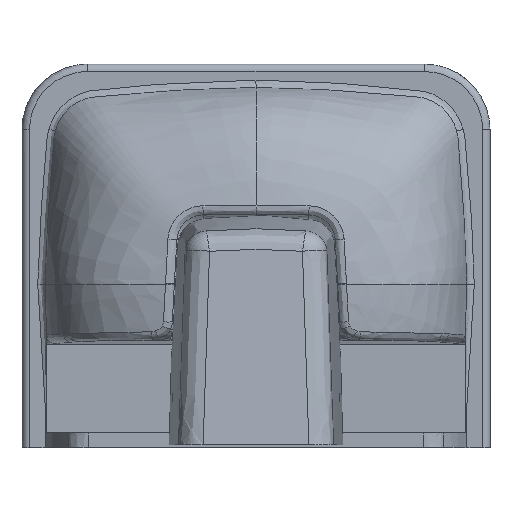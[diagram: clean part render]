
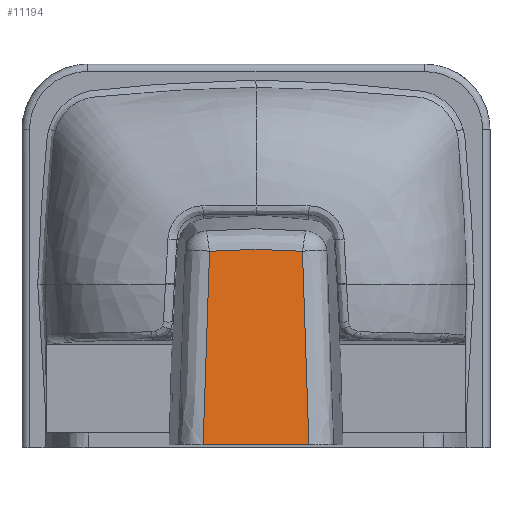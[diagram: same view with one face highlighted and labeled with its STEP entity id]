
A CAD part, front view. The second image highlights one B-rep face of the part: STEP entity #11194.
In plain terms, the highlighted planar face has unit normal (0, -0.995, 0.097).
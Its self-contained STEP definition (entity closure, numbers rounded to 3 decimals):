
#506 = CARTESIAN_POINT ( 'NONE',  ( 53.091, -398.737, -63.883 ) ) ;
#4570 = CARTESIAN_POINT ( 'NONE',  ( -17.165, -391.834, 6.925 ) ) ;
#5619 = CARTESIAN_POINT ( 'NONE',  ( 50.124, -392.856, -3.563 ) ) ;
#9405 = EDGE_CURVE ( 'NONE', #20133, #15150, #63604, .T. ) ;
#10368 = CARTESIAN_POINT ( 'NONE',  ( 46.073, -391.989, 5.337 ) ) ;
#10553 = EDGE_CURVE ( 'NONE', #40376, #58298, #27313, .T. ) ;
#10698 = CARTESIAN_POINT ( 'NONE',  ( -8.58, -391.816, 7.109 ) ) ;
#11194 = ADVANCED_FACE ( 'NONE', ( #15320 ), #29689, .F. ) ;
#12489 = CARTESIAN_POINT ( 'NONE',  ( 49.626, -392.017, 5.051 ) ) ;
#14078 = ORIENTED_EDGE ( 'NONE', *, *, #55355, .F. ) ;
#14197 = CARTESIAN_POINT ( 'NONE',  ( -49.626, -392.017, 5.051 ) ) ;
#15150 = VERTEX_POINT ( 'NONE', #12489 ) ;
#15162 = CARTESIAN_POINT ( 'NONE',  ( -42.866, -391.965, 5.579 ) ) ;
#15320 = FACE_OUTER_BOUND ( 'NONE', #64516, .T. ) ;
#15496 = CARTESIAN_POINT ( 'NONE',  ( 49.154, -392.013, 5.09 ) ) ;
#16156 = CARTESIAN_POINT ( 'NONE',  ( 8.581, -391.816, 7.109 ) ) ;
#20133 = VERTEX_POINT ( 'NONE', #14197 ) ;
#20400 = CARTESIAN_POINT ( 'NONE',  ( -50.125, -392.856, -3.563 ) ) ;
#20735 = CARTESIAN_POINT ( 'NONE',  ( -50.6, -393.696, -12.179 ) ) ;
#21066 = CARTESIAN_POINT ( 'NONE',  ( -55.486, -405.462, -132.857 ) ) ;
#24087 = B_SPLINE_CURVE_WITH_KNOTS ( 'NONE', 3,
 ( #45415, #67491, #21066, #60422, #66233, #62693, #56904, #20735, #20400, #41235 ),
 .UNSPECIFIED., .F., .F.,
 ( 4, 2, 2, 2, 4 ),
 ( 0., 0.5, 0.75, 0.875, 1. ),
 .UNSPECIFIED. ) ;
#25561 = CARTESIAN_POINT ( 'NONE',  ( 56.493, -412.189, -201.861 ) ) ;
#25575 = DIRECTION ( 'NONE',  ( 0., 0.995, -0.097 ) ) ;
#25751 = CARTESIAN_POINT ( 'NONE',  ( 34.307, -391.91, 6.143 ) ) ;
#26080 = CARTESIAN_POINT ( 'NONE',  ( 47.142, -391.997, 5.253 ) ) ;
#26741 = CARTESIAN_POINT ( 'NONE',  ( 17.165, -391.834, 6.925 ) ) ;
#27313 = B_SPLINE_CURVE_WITH_KNOTS ( 'NONE', 3,
 ( #31216, #36000, #41793, #42119 ),
 .UNSPECIFIED., .F., .F.,
 ( 4, 4 ),
 ( 0., 1. ),
 .UNSPECIFIED. ) ;
#28284 = AXIS2_PLACEMENT_3D ( 'NONE', #30029, #25575, #50488 ) ;
#29689 = PLANE ( 'NONE',  #28284 ) ;
#30029 = CARTESIAN_POINT ( 'NONE',  ( -4883.174, -415.503, -235.854 ) ) ;
#31216 = CARTESIAN_POINT ( 'NONE',  ( 56.493, -412.189, -201.861 ) ) ;
#31864 = CARTESIAN_POINT ( 'NONE',  ( -46.073, -391.989, 5.337 ) ) ;
#36000 = CARTESIAN_POINT ( 'NONE',  ( 18.831, -412.189, -201.861 ) ) ;
#39366 = EDGE_CURVE ( 'NONE', #58298, #20133, #24087, .T. ) ;
#40376 = VERTEX_POINT ( 'NONE', #25561 ) ;
#41235 = CARTESIAN_POINT ( 'NONE',  ( -49.626, -392.017, 5.051 ) ) ;
#41503 = CARTESIAN_POINT ( 'NONE',  ( 49.626, -392.017, 5.051 ) ) ;
#41785 = CARTESIAN_POINT ( 'NONE',  ( -49.155, -392.013, 5.09 ) ) ;
#41793 = CARTESIAN_POINT ( 'NONE',  ( -18.831, -412.189, -201.861 ) ) ;
#42111 = CARTESIAN_POINT ( 'NONE',  ( -34.306, -391.91, 6.143 ) ) ;
#42119 = CARTESIAN_POINT ( 'NONE',  ( -56.494, -412.189, -201.861 ) ) ;
#42441 = CARTESIAN_POINT ( 'NONE',  ( -47.143, -391.997, 5.254 ) ) ;
#42486 = CARTESIAN_POINT ( 'NONE',  ( 51.913, -396.217, -38.028 ) ) ;
#45415 = CARTESIAN_POINT ( 'NONE',  ( -56.494, -412.189, -201.861 ) ) ;
#46224 = CARTESIAN_POINT ( 'NONE',  ( -40.726, -391.95, 5.729 ) ) ;
#46560 = CARTESIAN_POINT ( 'NONE',  ( 49.626, -392.017, 5.051 ) ) ;
#47269 = CARTESIAN_POINT ( 'NONE',  ( 55.485, -405.462, -132.857 ) ) ;
#47553 = CARTESIAN_POINT ( 'NONE',  ( -30.023, -391.888, 6.373 ) ) ;
#47598 = CARTESIAN_POINT ( 'NONE',  ( 56.493, -412.189, -201.861 ) ) ;
#50488 = DIRECTION ( 'NONE',  ( -1., 0., 0. ) ) ;
#52049 = CARTESIAN_POINT ( 'NONE',  ( 51.493, -395.376, -29.411 ) ) ;
#52669 = CARTESIAN_POINT ( 'NONE',  ( 42.866, -391.965, 5.579 ) ) ;
#52714 = CARTESIAN_POINT ( 'NONE',  ( 50.6, -393.696, -12.179 ) ) ;
#55355 = EDGE_CURVE ( 'NONE', #15150, #40376, #64301, .T. ) ;
#56589 = CARTESIAN_POINT ( 'NONE',  ( -56.494, -412.189, -201.861 ) ) ;
#56904 = CARTESIAN_POINT ( 'NONE',  ( -51.494, -395.376, -29.411 ) ) ;
#57495 = CARTESIAN_POINT ( 'NONE',  ( 53.77, -400.418, -81.124 ) ) ;
#57778 = CARTESIAN_POINT ( 'NONE',  ( -49.626, -392.017, 5.051 ) ) ;
#58298 = VERTEX_POINT ( 'NONE', #56589 ) ;
#59647 = ORIENTED_EDGE ( 'NONE', *, *, #39366, .F. ) ;
#60422 = CARTESIAN_POINT ( 'NONE',  ( -53.77, -400.418, -81.124 ) ) ;
#61183 = ORIENTED_EDGE ( 'NONE', *, *, #10553, .F. ) ;
#62252 = CARTESIAN_POINT ( 'NONE',  ( 48.683, -392.009, 5.129 ) ) ;
#62298 = CARTESIAN_POINT ( 'NONE',  ( 56.202, -408.825, -167.357 ) ) ;
#62693 = CARTESIAN_POINT ( 'NONE',  ( -51.913, -396.217, -38.028 ) ) ;
#62911 = CARTESIAN_POINT ( 'NONE',  ( 40.726, -391.95, 5.729 ) ) ;
#63243 = CARTESIAN_POINT ( 'NONE',  ( 30.023, -391.888, 6.373 ) ) ;
#63604 =( BOUNDED_CURVE ( )  B_SPLINE_CURVE ( 3, ( #57778, #41785, #67042, #42441, #31864, #15162, #46224, #42111, #47553, #4570, #10698, #16156, #26741, #63243, #25751, #62911, #52669, #10368, #26080, #62252, #15496, #46560 ),
 .UNSPECIFIED., .F., .T. ) 
 B_SPLINE_CURVE_WITH_KNOTS ( ( 4, 2, 2, 2, 2, 2, 2, 2, 2, 2, 4 ),
 ( 0., 0.014, 0.047, 0.111, 0.241, 0.5, 0.759, 0.889, 0.953, 0.986, 1. ),
 .UNSPECIFIED. ) 
 CURVE ( )  GEOMETRIC_REPRESENTATION_ITEM ( )  RATIONAL_B_SPLINE_CURVE ( ( 1., 1., 1., 1., 1., 1., 1., 1., 1., 1., 1., 1., 1., 1., 1., 1., 1., 1., 1., 1., 1., 1. ) ) 
 REPRESENTATION_ITEM ( '' )  );
#64301 = B_SPLINE_CURVE_WITH_KNOTS ( 'NONE', 3,
 ( #41503, #5619, #52714, #52049, #42486, #506, #57495, #47269, #62298, #47598 ),
 .UNSPECIFIED., .F., .F.,
 ( 4, 2, 2, 2, 4 ),
 ( 0., 0.125, 0.25, 0.5, 1. ),
 .UNSPECIFIED. ) ;
#64516 = EDGE_LOOP ( 'NONE', ( #59647, #61183, #14078, #66812 ) ) ;
#66233 = CARTESIAN_POINT ( 'NONE',  ( -53.092, -398.737, -63.883 ) ) ;
#66812 = ORIENTED_EDGE ( 'NONE', *, *, #9405, .F. ) ;
#67042 = CARTESIAN_POINT ( 'NONE',  ( -48.683, -392.009, 5.129 ) ) ;
#67491 = CARTESIAN_POINT ( 'NONE',  ( -56.203, -408.825, -167.357 ) ) ;
